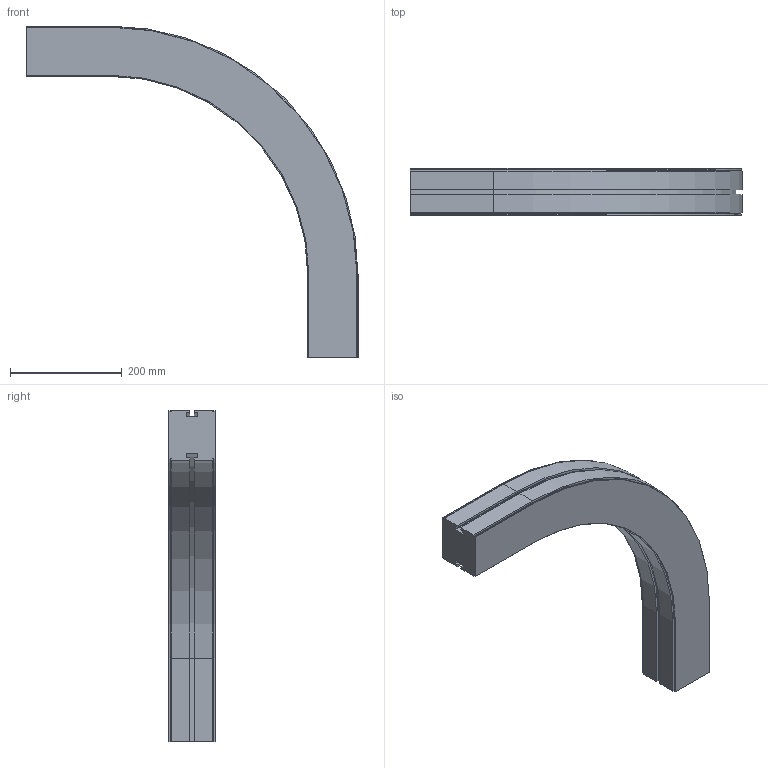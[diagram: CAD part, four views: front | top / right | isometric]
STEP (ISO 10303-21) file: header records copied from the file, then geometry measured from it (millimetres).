
FILE_DESCRIPTION (( 'STEP AP214' ), '1' );
FILE_NAME ('927812 CS090SL Horizontale bochtsectie R400 90°.STEP', '2014-03-20T14:53:57', ( 'Beheerder' ), ( '' ), 'SwSTEP 2.0', 'SolidWorks 2012', '' );
FILE_SCHEMA (( 'AUTOMOTIVE_DESIGN' ));
Length unit declared in the file: millimetre
Products named in the file (1): 927812 CS090SL Horizontale bochtsectie R400 90°
Bounding box: 595 x 84 x 595 mm (x, y, z)
Volume: 6641775.6 mm3; surface area: 435728.6 mm2
Topology: 1 solids, 1 shells, 98 faces, 272 edges, 176 vertices
Faces by surface type: plane 72, cylinder 18, cone 8
Entity records: 3126 total; most frequent: CARTESIAN_POINT 547, ORIENTED_EDGE 544, DIRECTION 514, EDGE_CURVE 272, LINE 228, VECTOR 228, VERTEX_POINT 176, AXIS2_PLACEMENT_3D 143
